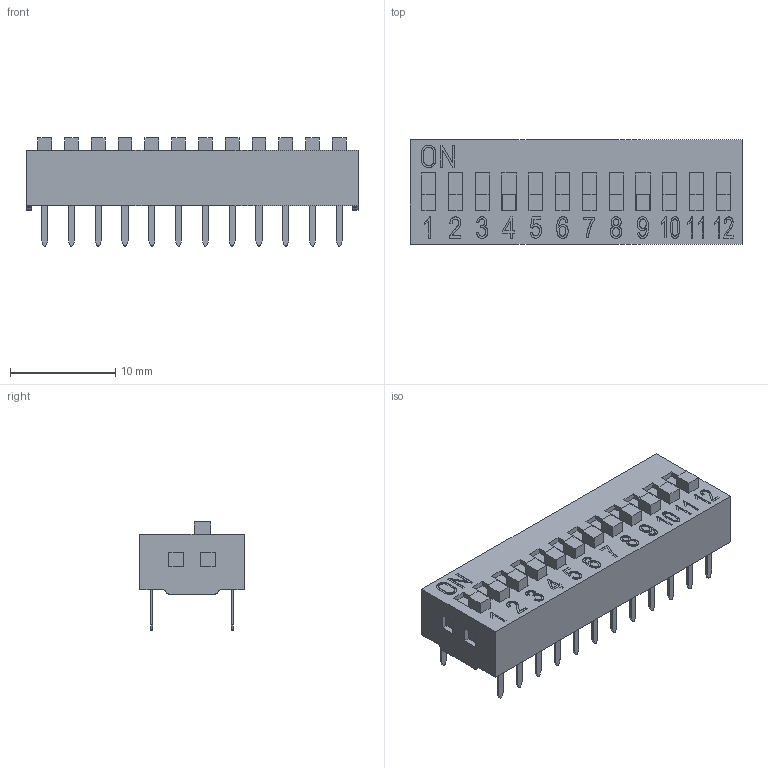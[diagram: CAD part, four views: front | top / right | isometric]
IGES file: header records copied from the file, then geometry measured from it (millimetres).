
Global section: file name: Filename.iges; native system: Open CASCADE 7.3; preprocessor: Open CASCADE IGES processor 7.3; date: 20200811.075220; units: millimetre
Bounding box: 31.48 x 9.9 x 10.25 mm (x, y, z)
Surface area: 3313.6 mm2 (no closed solid volume)
Topology: 0 solids, 0 shells, 896 faces, 4560 edges, 4560 vertices
Faces by surface type: plane 680, bspline 112, revolution 104
